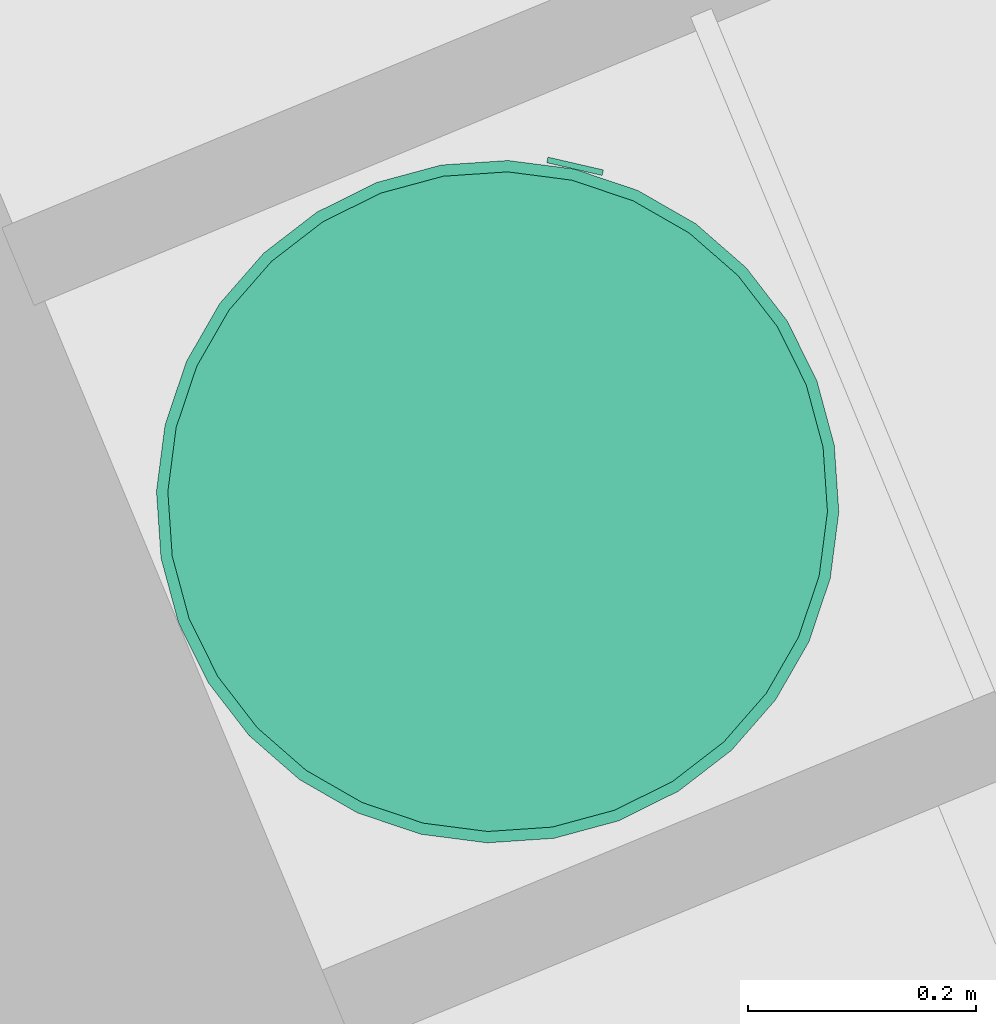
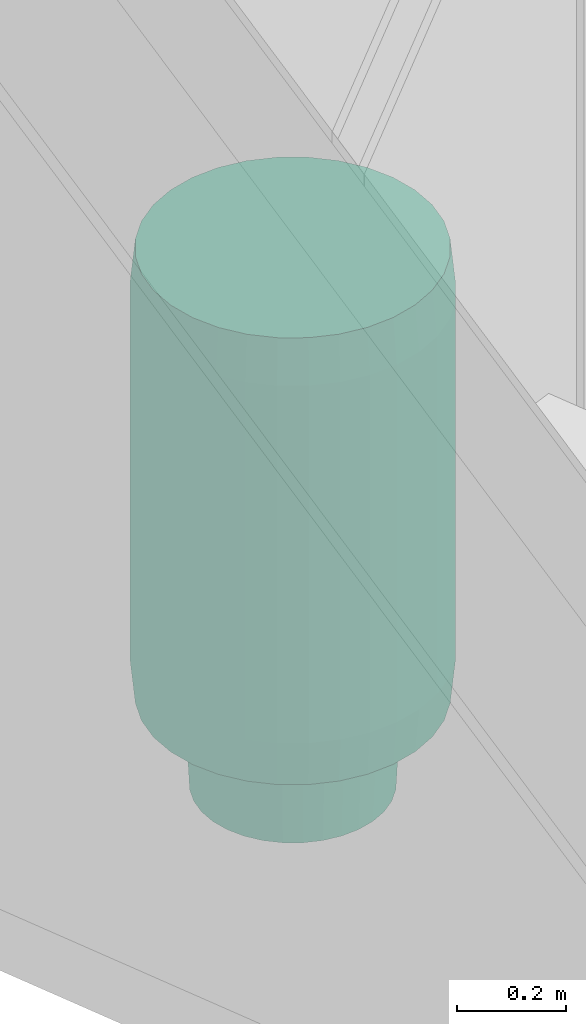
# One storey, part 66 of 90: 1 energy conversion device.
"""IFC2X3 building model written with IfcOpenShell, lengths in metres."""

from ifc_helpers import new_model, entity, si_unit, converted_unit, derived_unit, money_unit, direction, frame, origin_with_axes, place, context, subcontext, project, spatial, open_shell, faceted_brep, surface_model, source, transform, mapped, type_object, element, save


model = new_model("IFC2X3")

# Units and contexts
model_context = context("Model", 3, precision=1e-05, world=origin_with_axes(), true_north=direction((0.0, 1.0)))
body_context = subcontext(model_context, "Body", "Model", "MODEL_VIEW")
ifc_project = project(units=[si_unit("LENGTHUNIT", "METRE"), si_unit("AREAUNIT", "SQUARE_METRE"), si_unit("VOLUMEUNIT", "CUBIC_METRE"), converted_unit("PLANEANGLEUNIT", "DEGREE", entity("IfcPlaneAngleMeasure", 0.0174532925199), si_unit("PLANEANGLEUNIT", "RADIAN"), dimensions=[0, 0, 0, 0, 0, 0, 0]), si_unit("SOLIDANGLEUNIT", "STERADIAN"), money_unit("EUR"), converted_unit("TIMEUNIT", "Year", entity("IfcTimeMeasure", 31556926.0), si_unit("TIMEUNIT", "SECOND"), dimensions=[0, 0, 1, 0, 0, 0, 0]), si_unit("MASSUNIT", "GRAM", prefix="KILO"), si_unit("THERMODYNAMICTEMPERATUREUNIT", "DEGREE_CELSIUS"), si_unit("LUMINOUSINTENSITYUNIT", "LUMEN"), si_unit("ENERGYUNIT", "JOULE", prefix="MEGA"), derived_unit("THERMALCONDUCTANCEUNIT", [(si_unit("POWERUNIT", "WATT"), 1), (si_unit("LENGTHUNIT", "METRE"), -1), (si_unit("THERMODYNAMICTEMPERATUREUNIT", "KELVIN"), -1)]), derived_unit("SPECIFICHEATCAPACITYUNIT", [(si_unit("ENERGYUNIT", "JOULE"), 1), (si_unit("MASSUNIT", "GRAM", prefix="KILO"), -1), (si_unit("THERMODYNAMICTEMPERATUREUNIT", "KELVIN"), -1)]), derived_unit("MASSDENSITYUNIT", [(si_unit("MASSUNIT", "GRAM", prefix="KILO"), 1), (si_unit("VOLUMEUNIT", "CUBIC_METRE"), -1)])], contexts=[model_context])

# Site, building, storey
site_placement = place(None, origin_with_axes())
site = spatial("IfcSite", under=ifc_project, at=site_placement, Name="Site", CompositionType="ELEMENT")
building_placement = place(site_placement, origin_with_axes())
building = spatial("IfcBuilding", under=site, at=building_placement, Name="Bâtiment", CompositionType="ELEMENT")
storey_placement = place(building_placement, frame((0.0, 0.0, 2.72), z_axis=(0.0, 0.0, 1.0), x_axis=(1.0, 0.0, 0.0)))
storey = spatial("IfcBuildingStorey", under=building, at=storey_placement, Name="R+1", CompositionType="ELEMENT", Elevation=2.72)

# Energy conversion device
heat_exchanger_type = type_object("IfcHeatExchangerType", Name="Chauffe-eau électrique 23", PredefinedType="SHELLANDTUBE")
shared_shape = source(origin_with_axes(), body_context, "Body", "SurfaceModel", [
    surface_model("IfcShellBasedSurfaceModel", [(-0.245, -0.0135, 0.2), (-0.245, -0.0135, 0.18), (-0.241505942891, -0.0130399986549, 0.18), (-0.241505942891, -0.0130399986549, 0.2), (-0.248494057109, -0.0130399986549, 0.2), (-0.248494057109, -0.0130399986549, 0.18), (-0.23825, -0.0116913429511, 0.18), (-0.23825, -0.0116913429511, 0.2), (-0.25175, -0.0116913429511, 0.2), (-0.25175, -0.0116913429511, 0.18), (-0.235454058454, -0.00954594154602, 0.18), (-0.235454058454, -0.00954594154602, 0.2), (-0.254545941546, -0.00954594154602, 0.2), (-0.254545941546, -0.00954594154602, 0.18), (-0.233308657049, -0.00675, 0.18), (-0.233308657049, -0.00675, 0.2), (-0.256691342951, -0.00675, 0.2), (-0.256691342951, -0.00675, 0.18), (-0.231960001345, -0.00349405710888, 0.18), (-0.231960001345, -0.00349405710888, 0.2), (-0.258039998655, -0.00349405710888, 0.2), (-0.258039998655, -0.00349405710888, 0.18), (-0.2315, 0.0, 0.18), (-0.2315, 0.0, 0.2), (-0.2585, 0.0, 0.2), (-0.2585, 0.0, 0.18), (-0.231960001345, 0.00349405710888, 0.18), (-0.231960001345, 0.00349405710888, 0.2), (-0.258039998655, 0.00349405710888, 0.2), (-0.258039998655, 0.00349405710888, 0.18), (-0.233308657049, 0.00675, 0.18), (-0.233308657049, 0.00675, 0.2), (-0.256691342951, 0.00675, 0.2), (-0.256691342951, 0.00675, 0.18), (-0.235454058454, 0.00954594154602, 0.18), (-0.235454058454, 0.00954594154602, 0.2), (-0.254545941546, 0.00954594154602, 0.2), (-0.254545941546, 0.00954594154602, 0.18), (-0.23825, 0.0116913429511, 0.18), (-0.23825, 0.0116913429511, 0.2), (-0.25175, 0.0116913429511, 0.2), (-0.25175, 0.0116913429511, 0.18), (-0.241505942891, 0.0130399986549, 0.18), (-0.241505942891, 0.0130399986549, 0.2), (-0.248494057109, 0.0130399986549, 0.2), (-0.248494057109, 0.0130399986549, 0.18), (-0.245, 0.0135, 0.18), (-0.245, 0.0135, 0.2)], [open_shell([[[0, 1, 2, 3]], [[4, 5, 1, 0]], [[3, 2, 6, 7]], [[8, 9, 5, 4]], [[7, 6, 10, 11]], [[12, 13, 9, 8]], [[11, 10, 14, 15]], [[16, 17, 13, 12]], [[15, 14, 18, 19]], [[20, 21, 17, 16]], [[19, 18, 22, 23]], [[24, 25, 21, 20]], [[23, 22, 26, 27]], [[28, 29, 25, 24]], [[27, 26, 30, 31]], [[32, 33, 29, 28]], [[31, 30, 34, 35]], [[36, 37, 33, 32]], [[35, 34, 38, 39]], [[40, 41, 37, 36]], [[39, 38, 42, 43]], [[44, 45, 41, 40]], [[43, 42, 46, 47]], [[47, 46, 45, 44]]])]),
    surface_model("IfcShellBasedSurfaceModel", [(0.245, -0.0135, 0.2), (0.245, -0.0135, 0.18), (0.248494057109, -0.0130399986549, 0.18), (0.248494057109, -0.0130399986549, 0.2), (0.241505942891, -0.0130399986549, 0.2), (0.241505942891, -0.0130399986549, 0.18), (0.25175, -0.0116913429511, 0.18), (0.25175, -0.0116913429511, 0.2), (0.23825, -0.0116913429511, 0.2), (0.23825, -0.0116913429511, 0.18), (0.254545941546, -0.00954594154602, 0.18), (0.254545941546, -0.00954594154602, 0.2), (0.235454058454, -0.00954594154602, 0.2), (0.235454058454, -0.00954594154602, 0.18), (0.256691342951, -0.00675, 0.18), (0.256691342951, -0.00675, 0.2), (0.233308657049, -0.00675, 0.2), (0.233308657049, -0.00675, 0.18), (0.258039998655, -0.00349405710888, 0.18), (0.258039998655, -0.00349405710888, 0.2), (0.231960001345, -0.00349405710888, 0.2), (0.231960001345, -0.00349405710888, 0.18), (0.2585, 0.0, 0.18), (0.2585, 0.0, 0.2), (0.2315, 0.0, 0.2), (0.2315, 0.0, 0.18), (0.258039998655, 0.00349405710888, 0.18), (0.258039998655, 0.00349405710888, 0.2), (0.231960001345, 0.00349405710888, 0.2), (0.231960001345, 0.00349405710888, 0.18), (0.256691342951, 0.00675, 0.18), (0.256691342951, 0.00675, 0.2), (0.233308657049, 0.00675, 0.2), (0.233308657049, 0.00675, 0.18), (0.254545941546, 0.00954594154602, 0.18), (0.254545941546, 0.00954594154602, 0.2), (0.235454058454, 0.00954594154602, 0.2), (0.235454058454, 0.00954594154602, 0.18), (0.25175, 0.0116913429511, 0.18), (0.25175, 0.0116913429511, 0.2), (0.23825, 0.0116913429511, 0.2), (0.23825, 0.0116913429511, 0.18), (0.248494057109, 0.0130399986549, 0.18), (0.248494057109, 0.0130399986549, 0.2), (0.241505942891, 0.0130399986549, 0.2), (0.241505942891, 0.0130399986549, 0.18), (0.245, 0.0135, 0.18), (0.245, 0.0135, 0.2)], [open_shell([[[0, 1, 2, 3]], [[4, 5, 1, 0]], [[3, 2, 6, 7]], [[8, 9, 5, 4]], [[7, 6, 10, 11]], [[12, 13, 9, 8]], [[11, 10, 14, 15]], [[16, 17, 13, 12]], [[15, 14, 18, 19]], [[20, 21, 17, 16]], [[19, 18, 22, 23]], [[24, 25, 21, 20]], [[23, 22, 26, 27]], [[28, 29, 25, 24]], [[27, 26, 30, 31]], [[32, 33, 29, 28]], [[31, 30, 34, 35]], [[36, 37, 33, 32]], [[35, 34, 38, 39]], [[40, 41, 37, 36]], [[39, 38, 42, 43]], [[44, 45, 41, 40]], [[43, 42, 46, 47]], [[47, 46, 45, 44]]])]),
    faceted_brep([(-0.025, -0.305, 0.4), (-0.025, -0.3, 0.4), (0.025, -0.3, 0.4), (0.025, -0.305, 0.4), (-0.025, -0.305, 0.42), (-0.025, -0.3, 0.42), (0.025, -0.3, 0.42), (0.025, -0.305, 0.42)], [[[0, 1, 2, 3]], [[0, 4, 5, 1]], [[1, 5, 6, 2]], [[2, 6, 7, 3]], [[3, 7, 4, 0]], [[7, 6, 5, 4]]]),
    faceted_brep([(0.0222836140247, -0.16, 0.088519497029), (0.02, -0.16, 0.1), (0.0222836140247, -0.16, 0.111480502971), (0.0287867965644, -0.16, 0.121213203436), (0.038519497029, -0.16, 0.127716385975), (0.05, -0.16, 0.13), (0.061480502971, -0.16, 0.127716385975), (0.0712132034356, -0.16, 0.121213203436), (0.0777163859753, -0.16, 0.111480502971), (0.08, -0.16, 0.1), (0.0777163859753, -0.16, 0.088519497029), (0.0712132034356, -0.16, 0.0787867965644), (0.061480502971, -0.16, 0.0722836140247), (0.05, -0.16, 0.07), (0.038519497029, -0.16, 0.0722836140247), (0.0287867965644, -0.16, 0.0787867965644), (0.0222836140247, -0.175, 0.088519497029), (0.02, -0.175, 0.1), (0.0222836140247, -0.175, 0.111480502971), (0.0287867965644, -0.175, 0.121213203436), (0.038519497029, -0.175, 0.127716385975), (0.05, -0.175, 0.13), (0.061480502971, -0.175, 0.127716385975), (0.0712132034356, -0.175, 0.121213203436), (0.0777163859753, -0.175, 0.111480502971), (0.08, -0.175, 0.1), (0.0777163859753, -0.175, 0.088519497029), (0.0712132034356, -0.175, 0.0787867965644), (0.061480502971, -0.175, 0.0722836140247), (0.05, -0.175, 0.07), (0.038519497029, -0.175, 0.0722836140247), (0.0287867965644, -0.175, 0.0787867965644)], [[[0, 1, 2, 3, 4, 5, 6, 7, 8, 9, 10, 11, 12, 13, 14, 15]], [[0, 16, 17, 1]], [[1, 17, 18, 2]], [[2, 18, 19, 3]], [[3, 19, 20, 4]], [[4, 20, 21, 5]], [[5, 21, 22, 6]], [[6, 22, 23, 7]], [[7, 23, 24, 8]], [[8, 24, 25, 9]], [[9, 25, 26, 10]], [[10, 26, 27, 11]], [[11, 27, 28, 12]], [[12, 28, 29, 13]], [[13, 29, 30, 14]], [[14, 30, 31, 15]], [[15, 31, 16, 0]], [[16, 31, 30, 29, 28, 27, 26, 25, 24, 23, 22, 21, 20, 19, 18, 17]]]),
    faceted_brep([(-0.0777163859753, -0.16, 0.088519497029), (-0.08, -0.16, 0.1), (-0.0777163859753, -0.16, 0.111480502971), (-0.0712132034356, -0.16, 0.121213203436), (-0.061480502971, -0.16, 0.127716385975), (-0.05, -0.16, 0.13), (-0.038519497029, -0.16, 0.127716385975), (-0.0287867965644, -0.16, 0.121213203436), (-0.0222836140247, -0.16, 0.111480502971), (-0.02, -0.16, 0.1), (-0.0222836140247, -0.16, 0.088519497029), (-0.0287867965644, -0.16, 0.0787867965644), (-0.038519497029, -0.16, 0.0722836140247), (-0.05, -0.16, 0.07), (-0.061480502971, -0.16, 0.0722836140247), (-0.0712132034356, -0.16, 0.0787867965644), (-0.0777163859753, -0.175, 0.088519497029), (-0.08, -0.175, 0.1), (-0.0777163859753, -0.175, 0.111480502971), (-0.0712132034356, -0.175, 0.121213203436), (-0.061480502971, -0.175, 0.127716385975), (-0.05, -0.175, 0.13), (-0.038519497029, -0.175, 0.127716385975), (-0.0287867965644, -0.175, 0.121213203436), (-0.0222836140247, -0.175, 0.111480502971), (-0.02, -0.175, 0.1), (-0.0222836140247, -0.175, 0.088519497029), (-0.0287867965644, -0.175, 0.0787867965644), (-0.038519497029, -0.175, 0.0722836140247), (-0.05, -0.175, 0.07), (-0.061480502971, -0.175, 0.0722836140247), (-0.0712132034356, -0.175, 0.0787867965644)], [[[0, 1, 2, 3, 4, 5, 6, 7, 8, 9, 10, 11, 12, 13, 14, 15]], [[0, 16, 17, 1]], [[1, 17, 18, 2]], [[2, 18, 19, 3]], [[3, 19, 20, 4]], [[4, 20, 21, 5]], [[5, 21, 22, 6]], [[6, 22, 23, 7]], [[7, 23, 24, 8]], [[8, 24, 25, 9]], [[9, 25, 26, 10]], [[10, 26, 27, 11]], [[11, 27, 28, 12]], [[12, 28, 29, 13]], [[13, 29, 30, 14]], [[14, 30, 31, 15]], [[15, 31, 16, 0]], [[16, 31, 30, 29, 28, 27, 26, 25, 24, 23, 22, 21, 20, 19, 18, 17]]]),
    faceted_brep([(-0.186349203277, -0.0370671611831, 0.0), (-0.196157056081, -0.0390180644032, 0.2), (-0.2, 0.0, 0.2), (-0.19, 0.0, 0.0), (-0.175537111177, -0.0727098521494, 0.0), (-0.184775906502, -0.076536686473, 0.2), (-0.166293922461, -0.111114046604, 0.2), (-0.141421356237, -0.141421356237, 0.2), (-0.118783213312, -0.16, 0.2), (0.118783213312, -0.16, 0.2), (0.141421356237, -0.141421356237, 0.2), (0.166293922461, -0.111114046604, 0.2), (0.184775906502, -0.076536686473, 0.2), (0.196157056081, -0.0390180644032, 0.2), (0.2, 0.0, 0.2), (0.196157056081, 0.0390180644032, 0.2), (0.184775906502, 0.076536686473, 0.2), (0.166293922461, 0.111114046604, 0.2), (0.141421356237, 0.141421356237, 0.2), (0.111114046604, 0.166293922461, 0.2), (0.076536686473, 0.184775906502, 0.2), (0.0390180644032, 0.196157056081, 0.2), (0.0, 0.2, 0.2), (-0.0390180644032, 0.196157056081, 0.2), (-0.076536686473, 0.184775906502, 0.2), (-0.111114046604, 0.166293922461, 0.2), (-0.141421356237, 0.141421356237, 0.2), (-0.166293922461, 0.111114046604, 0.2), (-0.184775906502, 0.076536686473, 0.2), (-0.196157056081, 0.0390180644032, 0.2), (-0.186349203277, 0.0370671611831, 0.0), (-0.175537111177, 0.0727098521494, 0.0), (-0.157979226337, 0.105558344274, 0.0), (-0.134350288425, 0.134350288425, 0.0), (-0.105558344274, 0.157979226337, 0.0), (-0.0727098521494, 0.175537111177, 0.0), (-0.0370671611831, 0.186349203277, 0.0), (0.0, 0.19, 0.0), (0.0370671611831, 0.186349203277, 0.0), (0.0727098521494, 0.175537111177, 0.0), (0.105558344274, 0.157979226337, 0.0), (0.134350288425, 0.134350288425, 0.0), (0.157979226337, 0.105558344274, 0.0), (0.175537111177, 0.0727098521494, 0.0), (0.186349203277, 0.0370671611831, 0.0), (0.19, 0.0, 0.0), (0.186349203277, -0.0370671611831, 0.0), (0.175537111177, -0.0727098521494, 0.0), (0.157979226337, -0.105558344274, 0.0), (0.134350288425, -0.134350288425, 0.0), (0.105558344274, -0.157979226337, 0.0), (0.101777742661, -0.16, 0.0), (-0.101777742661, -0.16, 0.0), (-0.105558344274, -0.157979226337, 0.0), (-0.134350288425, -0.134350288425, 0.0), (-0.157979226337, -0.105558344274, 0.0), (-0.106908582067, -0.16, 0.0486072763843), (0.106908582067, -0.16, 0.0486072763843)], [[[0, 1, 2, 3]], [[4, 5, 1, 0]], [[1, 5, 6, 7, 8, 9, 10, 11, 12, 13, 14, 15, 16, 17, 18, 19, 20, 21, 22, 23, 24, 25, 26, 27, 28, 29, 2]], [[3, 2, 29, 30]], [[0, 3, 30, 31, 32, 33, 34, 35, 36, 37, 38, 39, 40, 41, 42, 43, 44, 45, 46, 47, 48, 49, 50, 51, 52, 53, 54, 55, 4]], [[55, 6, 5, 4]], [[54, 7, 6, 55]], [[53, 56, 8, 7, 54]], [[51, 57, 9, 8, 56, 52]], [[49, 10, 9, 57, 50]], [[48, 11, 10, 49]], [[47, 12, 11, 48]], [[46, 13, 12, 47]], [[45, 14, 13, 46]], [[44, 15, 14, 45]], [[43, 16, 15, 44]], [[42, 17, 16, 43]], [[41, 18, 17, 42]], [[40, 19, 18, 41]], [[39, 20, 19, 40]], [[38, 21, 20, 39]], [[37, 22, 21, 38]], [[36, 23, 22, 37]], [[35, 24, 23, 36]], [[34, 25, 24, 35]], [[33, 26, 25, 34]], [[32, 27, 26, 33]], [[31, 28, 27, 32]], [[30, 29, 28, 31]], [[50, 57, 51]], [[52, 56, 53]]]),
    faceted_brep([(-0.284427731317, -0.0565761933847, 0.2), (-0.294235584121, -0.0585270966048, 0.3), (-0.3, 0.0, 0.3), (-0.29, 0.0, 0.2), (-0.267925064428, -0.110978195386, 0.2), (-0.277163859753, -0.11480502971, 0.3), (-0.249440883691, -0.166671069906, 0.3), (-0.212132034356, -0.212132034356, 0.3), (-0.166671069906, -0.249440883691, 0.3), (-0.11480502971, -0.277163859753, 0.3), (-0.0585270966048, -0.294235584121, 0.3), (0.0, -0.3, 0.3), (0.0585270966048, -0.294235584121, 0.3), (0.11480502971, -0.277163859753, 0.3), (0.166671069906, -0.249440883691, 0.3), (0.212132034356, -0.212132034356, 0.3), (0.249440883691, -0.166671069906, 0.3), (0.277163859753, -0.11480502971, 0.3), (0.294235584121, -0.0585270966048, 0.3), (0.3, 0.0, 0.3), (0.294235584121, 0.0585270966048, 0.3), (0.277163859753, 0.11480502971, 0.3), (0.249440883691, 0.166671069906, 0.3), (0.212132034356, 0.212132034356, 0.3), (0.166671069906, 0.249440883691, 0.3), (0.11480502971, 0.277163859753, 0.3), (0.0585270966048, 0.294235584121, 0.3), (0.0, 0.3, 0.3), (-0.0585270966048, 0.294235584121, 0.3), (-0.11480502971, 0.277163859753, 0.3), (-0.166671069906, 0.249440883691, 0.3), (-0.212132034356, 0.212132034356, 0.3), (-0.249440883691, 0.166671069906, 0.3), (-0.277163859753, 0.11480502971, 0.3), (-0.294235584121, 0.0585270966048, 0.3), (-0.284427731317, 0.0565761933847, 0.2), (-0.267925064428, 0.110978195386, 0.2), (-0.241126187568, 0.161115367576, 0.2), (-0.205060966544, 0.205060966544, 0.2), (-0.161115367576, 0.241126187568, 0.2), (-0.110978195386, 0.267925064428, 0.2), (-0.0565761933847, 0.284427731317, 0.2), (0.0, 0.29, 0.2), (0.0565761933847, 0.284427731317, 0.2), (0.110978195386, 0.267925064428, 0.2), (0.161115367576, 0.241126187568, 0.2), (0.205060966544, 0.205060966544, 0.2), (0.241126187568, 0.161115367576, 0.2), (0.267925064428, 0.110978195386, 0.2), (0.284427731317, 0.0565761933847, 0.2), (0.29, 0.0, 0.2), (0.284427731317, -0.0565761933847, 0.2), (0.267925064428, -0.110978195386, 0.2), (0.241126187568, -0.161115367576, 0.2), (0.205060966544, -0.205060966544, 0.2), (0.161115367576, -0.241126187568, 0.2), (0.110978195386, -0.267925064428, 0.2), (0.0565761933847, -0.284427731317, 0.2), (0.0, -0.29, 0.2), (-0.0565761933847, -0.284427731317, 0.2), (-0.110978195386, -0.267925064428, 0.2), (-0.161115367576, -0.241126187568, 0.2), (-0.205060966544, -0.205060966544, 0.2), (-0.241126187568, -0.161115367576, 0.2)], [[[0, 1, 2, 3]], [[4, 5, 1, 0]], [[1, 5, 6, 7, 8, 9, 10, 11, 12, 13, 14, 15, 16, 17, 18, 19, 20, 21, 22, 23, 24, 25, 26, 27, 28, 29, 30, 31, 32, 33, 34, 2]], [[3, 2, 34, 35]], [[0, 3, 35, 36, 37, 38, 39, 40, 41, 42, 43, 44, 45, 46, 47, 48, 49, 50, 51, 52, 53, 54, 55, 56, 57, 58, 59, 60, 61, 62, 63, 4]], [[63, 6, 5, 4]], [[62, 7, 6, 63]], [[61, 8, 7, 62]], [[60, 9, 8, 61]], [[59, 10, 9, 60]], [[58, 11, 10, 59]], [[57, 12, 11, 58]], [[56, 13, 12, 57]], [[55, 14, 13, 56]], [[54, 15, 14, 55]], [[53, 16, 15, 54]], [[52, 17, 16, 53]], [[51, 18, 17, 52]], [[50, 19, 18, 51]], [[49, 20, 19, 50]], [[48, 21, 20, 49]], [[47, 22, 21, 48]], [[46, 23, 22, 47]], [[45, 24, 23, 46]], [[44, 25, 24, 45]], [[43, 26, 25, 44]], [[42, 27, 26, 43]], [[41, 28, 27, 42]], [[40, 29, 28, 41]], [[39, 30, 29, 40]], [[38, 31, 30, 39]], [[37, 32, 31, 38]], [[36, 33, 32, 37]], [[35, 34, 33, 36]]]),
    faceted_brep([(-0.294235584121, -0.0585270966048, 0.3), (-0.3, 0.0, 0.3), (-0.294235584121, 0.0585270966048, 0.3), (-0.277163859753, 0.11480502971, 0.3), (-0.249440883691, 0.166671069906, 0.3), (-0.212132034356, 0.212132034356, 0.3), (-0.166671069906, 0.249440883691, 0.3), (-0.11480502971, 0.277163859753, 0.3), (-0.0585270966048, 0.294235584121, 0.3), (0.0, 0.3, 0.3), (0.0585270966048, 0.294235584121, 0.3), (0.11480502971, 0.277163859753, 0.3), (0.166671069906, 0.249440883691, 0.3), (0.212132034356, 0.212132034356, 0.3), (0.249440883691, 0.166671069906, 0.3), (0.277163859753, 0.11480502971, 0.3), (0.294235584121, 0.0585270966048, 0.3), (0.3, 0.0, 0.3), (0.294235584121, -0.0585270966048, 0.3), (0.277163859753, -0.11480502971, 0.3), (0.249440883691, -0.166671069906, 0.3), (0.212132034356, -0.212132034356, 0.3), (0.166671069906, -0.249440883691, 0.3), (0.11480502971, -0.277163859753, 0.3), (0.0585270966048, -0.294235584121, 0.3), (0.0, -0.3, 0.3), (-0.0585270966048, -0.294235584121, 0.3), (-0.11480502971, -0.277163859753, 0.3), (-0.166671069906, -0.249440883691, 0.3), (-0.212132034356, -0.212132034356, 0.3), (-0.249440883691, -0.166671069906, 0.3), (-0.277163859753, -0.11480502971, 0.3), (-0.294235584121, -0.0585270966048, 1.1), (-0.3, 0.0, 1.1), (-0.294235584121, 0.0585270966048, 1.1), (-0.277163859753, 0.11480502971, 1.1), (-0.249440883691, 0.166671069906, 1.1), (-0.212132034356, 0.212132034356, 1.1), (-0.166671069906, 0.249440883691, 1.1), (-0.11480502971, 0.277163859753, 1.1), (-0.0585270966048, 0.294235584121, 1.1), (0.0, 0.3, 1.1), (0.0585270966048, 0.294235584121, 1.1), (0.11480502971, 0.277163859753, 1.1), (0.166671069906, 0.249440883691, 1.1), (0.212132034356, 0.212132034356, 1.1), (0.249440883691, 0.166671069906, 1.1), (0.277163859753, 0.11480502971, 1.1), (0.294235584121, 0.0585270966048, 1.1), (0.3, 0.0, 1.1), (0.294235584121, -0.0585270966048, 1.1), (0.277163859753, -0.11480502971, 1.1), (0.249440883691, -0.166671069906, 1.1), (0.212132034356, -0.212132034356, 1.1), (0.166671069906, -0.249440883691, 1.1), (0.11480502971, -0.277163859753, 1.1), (0.0585270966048, -0.294235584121, 1.1), (0.0, -0.3, 1.1), (-0.0585270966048, -0.294235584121, 1.1), (-0.11480502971, -0.277163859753, 1.1), (-0.166671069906, -0.249440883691, 1.1), (-0.212132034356, -0.212132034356, 1.1), (-0.249440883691, -0.166671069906, 1.1), (-0.277163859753, -0.11480502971, 1.1)], [[[0, 1, 2, 3, 4, 5, 6, 7, 8, 9, 10, 11, 12, 13, 14, 15, 16, 17, 18, 19, 20, 21, 22, 23, 24, 25, 26, 27, 28, 29, 30, 31]], [[0, 32, 33, 1]], [[1, 33, 34, 2]], [[2, 34, 35, 3]], [[3, 35, 36, 4]], [[4, 36, 37, 5]], [[5, 37, 38, 6]], [[6, 38, 39, 7]], [[7, 39, 40, 8]], [[8, 40, 41, 9]], [[9, 41, 42, 10]], [[10, 42, 43, 11]], [[11, 43, 44, 12]], [[12, 44, 45, 13]], [[13, 45, 46, 14]], [[14, 46, 47, 15]], [[15, 47, 48, 16]], [[16, 48, 49, 17]], [[17, 49, 50, 18]], [[18, 50, 51, 19]], [[19, 51, 52, 20]], [[20, 52, 53, 21]], [[21, 53, 54, 22]], [[22, 54, 55, 23]], [[23, 55, 56, 24]], [[24, 56, 57, 25]], [[25, 57, 58, 26]], [[26, 58, 59, 27]], [[27, 59, 60, 28]], [[28, 60, 61, 29]], [[29, 61, 62, 30]], [[30, 62, 63, 31]], [[31, 63, 32, 0]], [[32, 63, 62, 61, 60, 59, 58, 57, 56, 55, 54, 53, 52, 51, 50, 49, 48, 47, 46, 45, 44, 43, 42, 41, 40, 39, 38, 37, 36, 35, 34, 33]]]),
    faceted_brep([(-0.294235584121, -0.0585270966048, 1.1), (-0.284427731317, -0.0565761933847, 1.2), (-0.29, 0.0, 1.2), (-0.3, 0.0, 1.1), (-0.277163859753, -0.11480502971, 1.1), (-0.267925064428, -0.110978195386, 1.2), (-0.241126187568, -0.161115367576, 1.2), (-0.205060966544, -0.205060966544, 1.2), (-0.161115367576, -0.241126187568, 1.2), (-0.110978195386, -0.267925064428, 1.2), (-0.0565761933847, -0.284427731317, 1.2), (0.0, -0.29, 1.2), (0.0565761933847, -0.284427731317, 1.2), (0.110978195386, -0.267925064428, 1.2), (0.161115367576, -0.241126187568, 1.2), (0.205060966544, -0.205060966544, 1.2), (0.241126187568, -0.161115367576, 1.2), (0.267925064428, -0.110978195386, 1.2), (0.284427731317, -0.0565761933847, 1.2), (0.29, 0.0, 1.2), (0.284427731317, 0.0565761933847, 1.2), (0.267925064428, 0.110978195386, 1.2), (0.241126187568, 0.161115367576, 1.2), (0.205060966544, 0.205060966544, 1.2), (0.161115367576, 0.241126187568, 1.2), (0.110978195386, 0.267925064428, 1.2), (0.0565761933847, 0.284427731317, 1.2), (0.0, 0.29, 1.2), (-0.0565761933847, 0.284427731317, 1.2), (-0.110978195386, 0.267925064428, 1.2), (-0.161115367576, 0.241126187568, 1.2), (-0.205060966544, 0.205060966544, 1.2), (-0.241126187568, 0.161115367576, 1.2), (-0.267925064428, 0.110978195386, 1.2), (-0.284427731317, 0.0565761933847, 1.2), (-0.294235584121, 0.0585270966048, 1.1), (-0.277163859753, 0.11480502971, 1.1), (-0.249440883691, 0.166671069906, 1.1), (-0.212132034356, 0.212132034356, 1.1), (-0.166671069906, 0.249440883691, 1.1), (-0.11480502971, 0.277163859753, 1.1), (-0.0585270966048, 0.294235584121, 1.1), (0.0, 0.3, 1.1), (0.0585270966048, 0.294235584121, 1.1), (0.11480502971, 0.277163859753, 1.1), (0.166671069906, 0.249440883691, 1.1), (0.212132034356, 0.212132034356, 1.1), (0.249440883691, 0.166671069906, 1.1), (0.277163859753, 0.11480502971, 1.1), (0.294235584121, 0.0585270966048, 1.1), (0.3, 0.0, 1.1), (0.294235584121, -0.0585270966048, 1.1), (0.277163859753, -0.11480502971, 1.1), (0.249440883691, -0.166671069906, 1.1), (0.212132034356, -0.212132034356, 1.1), (0.166671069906, -0.249440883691, 1.1), (0.11480502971, -0.277163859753, 1.1), (0.0585270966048, -0.294235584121, 1.1), (0.0, -0.3, 1.1), (-0.0585270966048, -0.294235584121, 1.1), (-0.11480502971, -0.277163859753, 1.1), (-0.166671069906, -0.249440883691, 1.1), (-0.212132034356, -0.212132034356, 1.1), (-0.249440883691, -0.166671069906, 1.1)], [[[0, 1, 2, 3]], [[4, 5, 1, 0]], [[1, 5, 6, 7, 8, 9, 10, 11, 12, 13, 14, 15, 16, 17, 18, 19, 20, 21, 22, 23, 24, 25, 26, 27, 28, 29, 30, 31, 32, 33, 34, 2]], [[3, 2, 34, 35]], [[0, 3, 35, 36, 37, 38, 39, 40, 41, 42, 43, 44, 45, 46, 47, 48, 49, 50, 51, 52, 53, 54, 55, 56, 57, 58, 59, 60, 61, 62, 63, 4]], [[63, 6, 5, 4]], [[62, 7, 6, 63]], [[61, 8, 7, 62]], [[60, 9, 8, 61]], [[59, 10, 9, 60]], [[58, 11, 10, 59]], [[57, 12, 11, 58]], [[56, 13, 12, 57]], [[55, 14, 13, 56]], [[54, 15, 14, 55]], [[53, 16, 15, 54]], [[52, 17, 16, 53]], [[51, 18, 17, 52]], [[50, 19, 18, 51]], [[49, 20, 19, 50]], [[48, 21, 20, 49]], [[47, 22, 21, 48]], [[46, 23, 22, 47]], [[45, 24, 23, 46]], [[44, 25, 24, 45]], [[43, 26, 25, 44]], [[42, 27, 26, 43]], [[41, 28, 27, 42]], [[40, 29, 28, 41]], [[39, 30, 29, 40]], [[38, 31, 30, 39]], [[37, 32, 31, 38]], [[36, 33, 32, 37]], [[35, 34, 33, 36]]]),
])
energy_conversion_device_placement = place(storey_placement, frame((-32.4866743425, -23.2799863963, 0.0), z_axis=(0.0, 0.0, 1.0), x_axis=(-0.97438734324, 0.224876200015, 0.0)))
element("IfcEnergyConversionDevice", 1, at=energy_conversion_device_placement, inside=storey, type_object=heat_exchanger_type, Name="MOB-002", context=body_context, shape_type="MappedRepresentation", body=[
    mapped(shared_shape, transform((0.0, 0.0, 0.0))),
])

save(model, "model.ifc")
